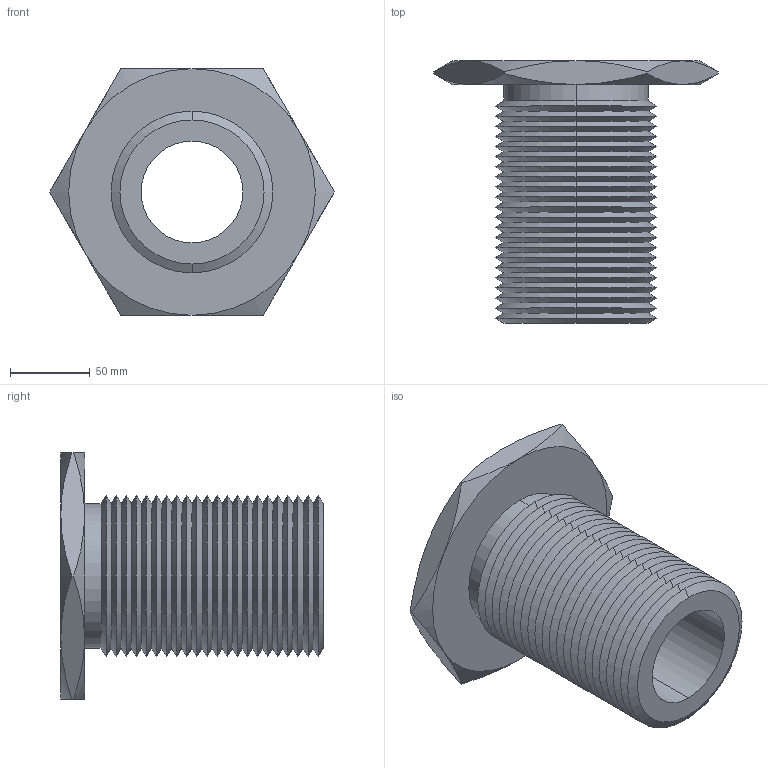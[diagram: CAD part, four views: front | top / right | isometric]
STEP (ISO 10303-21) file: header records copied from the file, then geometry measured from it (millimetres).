
FILE_DESCRIPTION (( 'STEP AP203' ), '1' );
FILE_NAME ('63302.W5400_M64x4.step', '2013-12-08T12:02:16', ( 'User' ), ( '' ), 'SwSTEP 2.0', 'SolidWorks 2009', '' );
FILE_SCHEMA (( 'CONFIG_CONTROL_DESIGN' ));
Length unit declared in the file: millimetre
Products named in the file (1): 63302.W5400_M64x4
Bounding box: 178.98 x 165 x 155 mm (x, y, z)
Volume: 852345.7 mm3; surface area: 161292.4 mm2
Topology: 1 solids, 1 shells, 115 faces, 234 edges, 122 vertices
Faces by surface type: cone 102, plane 9, cylinder 4
Entity records: 3179 total; most frequent: CARTESIAN_POINT 696, DIRECTION 552, ORIENTED_EDGE 468, EDGE_CURVE 234, AXIS2_PLACEMENT_3D 226, VERTEX_POINT 122, EDGE_LOOP 118, ADVANCED_FACE 115
